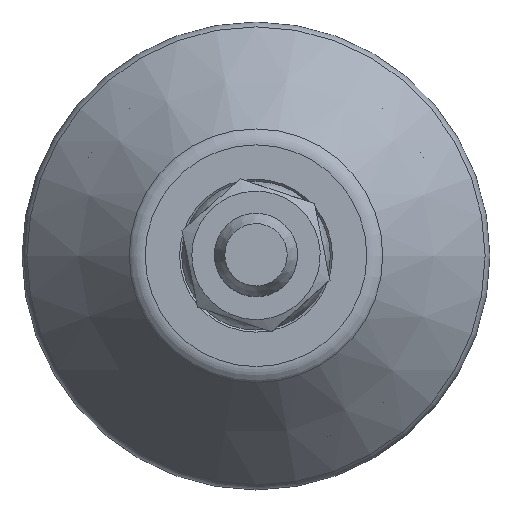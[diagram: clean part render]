
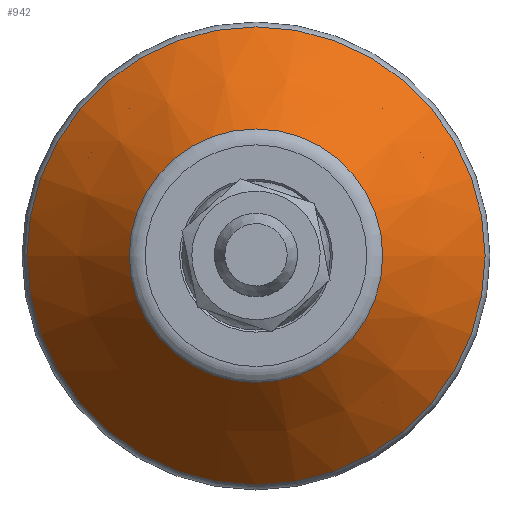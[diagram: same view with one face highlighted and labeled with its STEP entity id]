
A CAD part, top view. The second image highlights one B-rep face of the part: STEP entity #942.
In plain terms, the highlighted conical face has half-angle 40 degrees and reference radius 17.112 mm.
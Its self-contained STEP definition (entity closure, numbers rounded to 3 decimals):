
#942=ADVANCED_FACE('',(#1986,#1988),#1990,.T.);
#1986=FACE_BOUND('',#1987,.T.);
#1987=EDGE_LOOP('',(#2855,#2856));
#1988=FACE_BOUND('',#1989,.T.);
#1989=EDGE_LOOP('',(#2857,#2858));
#1990=CONICAL_SURFACE('',#1991,17.112,0.698);
#1991=AXIS2_PLACEMENT_3D('',#1992,#1993,#1994);
#1992=CARTESIAN_POINT('',(0.,0.,11.422));
#1993=DIRECTION('',(0.,0.,-1.));
#1994=DIRECTION('',(1.,0.,0.));
#2855=ORIENTED_EDGE('',*,*,#3345,.T.);
#2856=ORIENTED_EDGE('',*,*,#3344,.T.);
#2857=ORIENTED_EDGE('',*,*,#3348,.F.);
#2858=ORIENTED_EDGE('',*,*,#3349,.F.);
#3344=EDGE_CURVE('',#3872,#3873,#3874,.T.);
#3345=EDGE_CURVE('',#3873,#3872,#3875,.T.);
#3348=EDGE_CURVE('',#3880,#3881,#3882,.T.);
#3349=EDGE_CURVE('',#3881,#3880,#3883,.T.);
#3872=VERTEX_POINT('',#6303);
#3873=VERTEX_POINT('',#6304);
#3874=CIRCLE('',#6305,22.032);
#3875=CIRCLE('',#6309,22.032);
#3880=VERTEX_POINT('',#6323);
#3881=VERTEX_POINT('',#6324);
#3882=CIRCLE('',#6325,12.191);
#3883=CIRCLE('',#6329,12.191);
#6303=CARTESIAN_POINT('',(-22.032,0.,5.558));
#6304=CARTESIAN_POINT('',(22.032,0.,5.558));
#6305=AXIS2_PLACEMENT_3D('',#6306,#6307,#6308);
#6306=CARTESIAN_POINT('',(0.,0.,5.558));
#6307=DIRECTION('',(0.,0.,1.));
#6308=DIRECTION('',(-1.,0.,0.));
#6309=AXIS2_PLACEMENT_3D('',#6310,#6311,#6312);
#6310=CARTESIAN_POINT('',(0.,0.,5.558));
#6311=DIRECTION('',(0.,0.,1.));
#6312=DIRECTION('',(1.,0.,0.));
#6323=CARTESIAN_POINT('',(-12.191,0.,17.286));
#6324=CARTESIAN_POINT('',(12.191,0.,17.286));
#6325=AXIS2_PLACEMENT_3D('',#6326,#6327,#6328);
#6326=CARTESIAN_POINT('',(0.,0.,17.286));
#6327=DIRECTION('',(0.,0.,1.));
#6328=DIRECTION('',(-1.,0.,0.));
#6329=AXIS2_PLACEMENT_3D('',#6330,#6331,#6332);
#6330=CARTESIAN_POINT('',(0.,0.,17.286));
#6331=DIRECTION('',(0.,0.,1.));
#6332=DIRECTION('',(1.,0.,0.));
